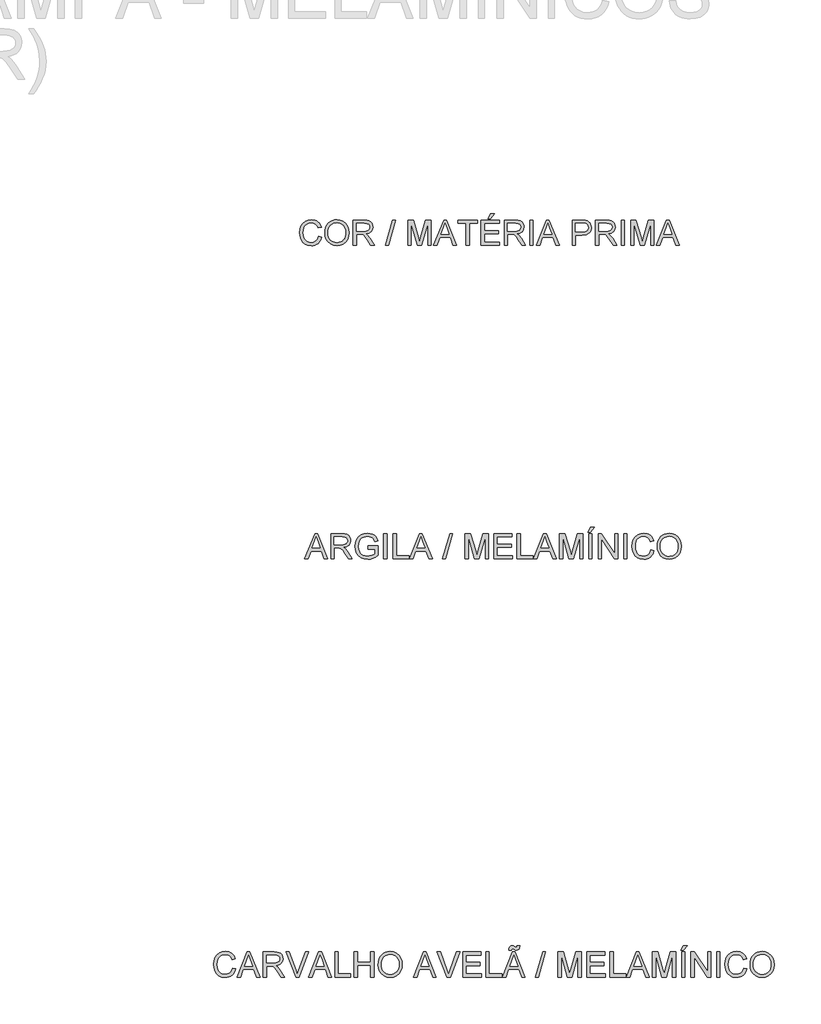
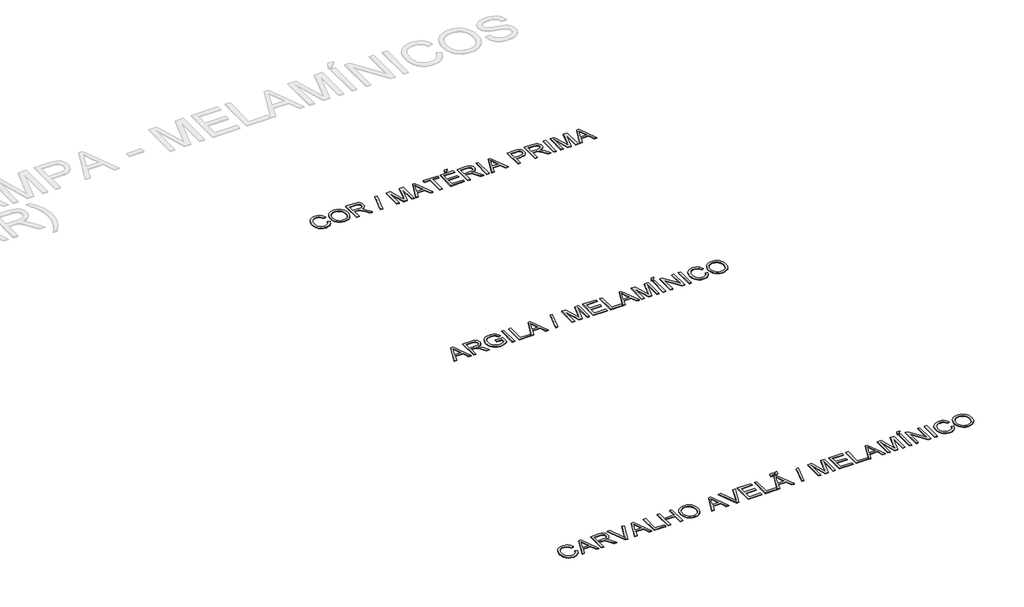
# One storey, part 42 of 67: 3 proxies.
"""IFC4 building model written with IfcOpenShell, lengths in millimetres."""

from ifc_helpers import new_model, si_unit, origin, origin_with_axes, place, context, project, spatial, polyline, outline, extrude, element, save

model = new_model("IFC4")

# Units and contexts
model_context = context("Model", 3, world=origin())
ifc_project = project(units=[si_unit("LENGTHUNIT", "METRE", prefix="MILLI")], contexts=[model_context])

# Site, building, storey
site = spatial("IfcSite", under=ifc_project)
building = spatial("IfcBuilding", under=site)
storey = spatial("IfcBuildingStorey", under=building, Name="Marelli - Linha COLAB - Planta Baixa", Elevation=0.0)

# Proxies
placement = place(None, origin())
element("IfcBuildingElementProxy", 1, Name="300mm Arial", ObjectType="300mm Arial", at=placement, inside=storey, context=model_context, shape_type="SweptSolid", body=[
    extrude(outline(polyline([(31304.1029253, -83673.4390831), (31341.7740416, -83683.1511677), (31334.3198327, -83706.5783531), (31324.3916173, -83727.0486868), (31311.9893956, -83744.5621691), (31297.1131674, -83759.1187997), (31280.0986251, -83770.5622291), (31261.2814611, -83778.7361071), (31240.6616752, -83783.640434), (31218.2392676, -83785.2752096), (31174.5440836, -83780.3271968), (31139.8436145, -83765.4831583), (31113.2457462, -83741.2581289), (31093.8583651, -83708.1671434), (31082.0217619, -83669.2636224), (31078.0762275, -83627.6009865), (31082.5367967, -83583.6574821), (31095.9185042, -83545.7104543), (31117.5223744, -83514.9647166), (31146.6494314, -83492.6250824), (31181.1935507, -83479.0226457), (31219.048608, -83474.4885001), (31260.352559, -83480.3562179), (31278.3212952, -83487.6908652), (31294.5012052, -83497.9593714), (31308.6255746, -83510.8904235), (31320.4276888, -83526.2127086), (31337.0651521, -83564.0309777), (31299.3940358, -83573.0072984), (31286.3342249, -83545.5357104), (31268.4919482, -83526.6909552), (31245.6464763, -83515.7924511), (31217.57708, -83512.1596164), (31185.2218586, -83516.1879242), (31158.6423844, -83528.2728478), (31138.473254, -83547.1451941), (31125.3490638, -83571.5357704), (31118.1477738, -83599.1085259), (31115.7473438, -83627.5274101), (31118.5892322, -83662.3290468), (31127.1148974, -83692.421794), (31141.6462362, -83716.6560205), (31162.5051454, -83733.8820949), (31187.511924, -83744.1735937), (31214.4868713, -83747.6040933), (31245.9315848, -83742.931992), (31272.1339799, -83728.9156879), (31291.9168342, -83705.702334), (31304.1029253, -83673.4390831)])), origin_with_axes(), (0.0, 0.0, 1.0), 10.0),
    extrude(outline(polyline([(31379.4451579, -83633.8549804), (31381.9559525, -83598.5061192), (31389.4883364, -83567.213157), (31402.0423095, -83539.9760937), (31419.6178718, -83516.7949295), (31441.1619611, -83498.2858666), (31465.6215153, -83485.0651074), (31492.9965342, -83477.1326519), (31523.287018, -83474.4885001), (31562.8159384, -83479.454907), (31598.2613686, -83494.3541278), (31627.6919283, -83518.1376988), (31649.1762368, -83549.7571563), (31662.309624, -83587.68579), (31666.6874197, -83630.3968896), (31662.0796978, -83673.6782064), (31648.2565318, -83712.140269), (31625.981277, -83743.8149087), (31596.0172885, -83766.733957), (31560.8753609, -83780.6398965), (31523.0662888, -83785.2752096), (31482.9303632, -83780.1524528), (31447.2825978, -83764.7841825), (31417.9256146, -83740.5591531), (31396.6620353, -83708.8661192), (31383.7493773, -83672.3998164), (31379.4451579, -83633.8549804)]), holes=[polyline([(31417.1162742, -83634.2228624), (31418.9993702, -83659.1974513), (31424.6486581, -83681.3669401), (31434.0641379, -83700.7313286), (31447.2458096, -83717.2906169), (31463.2693698, -83730.5527628), (31481.2105148, -83740.0257242), (31501.0692448, -83745.709501), (31522.8455596, -83747.6040933), (31544.994355, -83745.6911069), (31565.0876097, -83739.9521478), (31583.1253238, -83730.3872159), (31599.1074972, -83716.9963113), (31612.1925999, -83700.0875351), (31621.5391019, -83679.9689885), (31627.1470031, -83656.6406715), (31629.0163034, -83630.102584), (31625.8157301, -83596.7540812), (31616.21401, -83567.9305269), (31600.4594636, -83544.358488), (31578.8004111, -83526.7645316), (31552.6715924, -83515.8108452), (31523.5077472, -83512.1596164), (31502.4878897, -83513.9185522), (31482.9855455, -83519.1953595), (31465.0007144, -83527.9900385), (31448.5333966, -83540.302589), (31434.7884056, -83556.7262208), (31424.9705548, -83577.8541437), (31419.0798444, -83603.6863575), (31417.1162742, -83634.2228624)])]), origin_with_axes(), (0.0, 0.0, 1.0), 10.0),
    extrude(outline(polyline([(31718.4852047, -83780.5663201), (31718.4852047, -83479.1973896), (31848.347549, -83479.1973896), (31883.2503533, -83481.2299376), (31908.643408, -83487.3275817), (31927.2030546, -83498.5847708), (31941.6056347, -83516.0959537), (31950.8486699, -83537.8101885), (31953.9296816, -83561.6765329), (31948.8253189, -83591.3646099), (31933.5122308, -83615.9759154), (31921.9124517, -83626.0052983), (31907.5305649, -83634.0205273), (31870.4204687, -83644.0085235), (31891.8312008, -83660.1217548), (31922.3654064, -83698.8965171), (31972.6180869, -83780.5663201), (31928.8401295, -83780.5663201), (31889.6239088, -83718.0999573), (31861.2969952, -83676.750021), (31841.3945793, -83657.2154871), (31823.4787261, -83650.0417882), (31801.6265356, -83648.717413), (31756.156321, -83648.717413), (31756.156321, -83780.5663201), (31718.4852047, -83780.5663201)]), holes=[polyline([(31756.156321, -83611.0462967), (31840.4748743, -83611.0462967), (31864.6907066, -83609.7127245), (31883.4802795, -83605.7120078), (31897.6253422, -83598.7774322), (31907.907644, -83588.6422832), (31914.170835, -83576.3826157), (31916.2585653, -83563.0744845), (31912.2762427, -83544.6987789), (31900.3292749, -83529.8915286), (31879.7738684, -83520.1242616), (31849.9662297, -83516.8685059), (31756.156321, -83516.8685059), (31756.156321, -83611.0462967)])]), origin_with_axes(), (0.0, 0.0, 1.0), 10.0),
    extrude(outline(polyline([(32104.6141468, -83780.5663201), (32189.3741585, -83479.1973896), (32223.3664548, -83479.1973896), (32138.6064432, -83780.5663201), (32104.6141468, -83780.5663201)])), origin_with_axes(), (0.0, 0.0, 1.0), 10.0),
    extrude(outline(polyline([(32373.0208505, -83780.5663201), (32373.0208505, -83479.1973896), (32437.841658, -83479.1973896), (32499.4986804, -83691.6124536), (32511.9330919, -83735.9790223), (32525.3975729, -83687.9336337), (32586.0245257, -83479.1973896), (32650.8453332, -83479.1973896), (32650.8453332, -83780.5663201), (32613.1742169, -83780.5663201), (32613.1742169, -83516.8685059), (32537.4641023, -83780.5663201), (32486.4020814, -83780.5663201), (32410.6919668, -83516.8685059), (32410.6919668, -83780.5663201), (32373.0208505, -83780.5663201)])), origin_with_axes(), (0.0, 0.0, 1.0), 10.0),
    extrude(outline(polyline([(32681.6738444, -83780.5663201), (32801.9712569, -83479.1973896), (32834.0505668, -83479.1973896), (32954.3479793, -83780.5663201), (32914.5431474, -83780.5663201), (32880.0358162, -83686.3885293), (32755.9124311, -83686.3885293), (32721.4786763, -83780.5663201), (32681.6738444, -83780.5663201)]), holes=[polyline([(32769.7447941, -83648.717413), (32866.2770296, -83648.717413), (32839.1273384, -83574.6259792), (32818.0109119, -83516.8685059), (32799.2489301, -83568.1512561), (32769.7447941, -83648.717413)])]), origin_with_axes(), (0.0, 0.0, 1.0), 10.0),
    extrude(outline(polyline([(33069.9365021, -83780.5663201), (33069.9365021, -83516.8685059), (32971.0498218, -83516.8685059), (32971.0498218, -83479.1973896), (33206.4942988, -83479.1973896), (33206.4942988, -83516.8685059), (33107.6076185, -83516.8685059), (33107.6076185, -83780.5663201), (33069.9365021, -83780.5663201)])), origin_with_axes(), (0.0, 0.0, 1.0), 10.0),
    extrude(outline(polyline([(33248.8743046, -83780.5663201), (33248.8743046, -83479.1973896), (33465.4832234, -83479.1973896), (33465.4832234, -83516.8685059), (33286.5454209, -83516.8685059), (33286.5454209, -83606.3374072), (33456.0654443, -83606.3374072), (33456.0654443, -83644.0085235), (33286.5454209, -83644.0085235), (33286.5454209, -83742.8952038), (33470.1921129, -83742.8952038), (33470.1921129, -83780.5663201), (33248.8743046, -83780.5663201)])), origin_with_axes(), (0.0, 0.0, 1.0), 10.0),
    extrude(outline(polyline([(33333.6343163, -83460.3618315), (33361.8876535, -83403.855157), (33408.9765489, -83403.855157), (33361.8876535, -83460.3618315), (33333.6343163, -83460.3618315)])), origin_with_axes(), (0.0, 0.0, 1.0), 10.0),
    extrude(outline(polyline([(33526.6987874, -83780.5663201), (33526.6987874, -83479.1973896), (33656.5611317, -83479.1973896), (33691.463936, -83481.2299376), (33716.8569907, -83487.3275817), (33735.4166373, -83498.5847708), (33749.8192174, -83516.0959537), (33759.0622526, -83537.8101885), (33762.1432643, -83561.6765329), (33757.0389016, -83591.3646099), (33741.7258135, -83615.9759154), (33730.1260344, -83626.0052983), (33715.7441476, -83634.0205273), (33678.6340514, -83644.0085235), (33700.0447835, -83660.1217548), (33730.5789891, -83698.8965171), (33780.8316696, -83780.5663201), (33737.0537122, -83780.5663201), (33697.8374915, -83718.0999573), (33669.5105779, -83676.750021), (33649.6081619, -83657.2154871), (33631.6923088, -83650.0417882), (33609.8401183, -83648.717413), (33564.3699037, -83648.717413), (33564.3699037, -83780.5663201), (33526.6987874, -83780.5663201)]), holes=[polyline([(33564.3699037, -83611.0462967), (33648.688457, -83611.0462967), (33672.9042893, -83609.7127245), (33691.6938622, -83605.7120078), (33705.8389249, -83598.7774322), (33716.1212267, -83588.6422832), (33722.3844176, -83576.3826157), (33724.472148, -83563.0744845), (33720.4898254, -83544.6987789), (33708.5428576, -83529.8915286), (33687.9874511, -83520.1242616), (33658.1798124, -83516.8685059), (33564.3699037, -83516.8685059), (33564.3699037, -83611.0462967)])]), origin_with_axes(), (0.0, 0.0, 1.0), 10.0),
    extrude(outline(polyline([(33832.7766073, -83780.5663201), (33832.7766073, -83479.1973896), (33870.4477237, -83479.1973896), (33870.4477237, -83780.5663201), (33832.7766073, -83780.5663201)])), origin_with_axes(), (0.0, 0.0, 1.0), 10.0),
    extrude(outline(polyline([(33910.6940139, -83780.5663201), (34030.9914263, -83479.1973896), (34063.0707363, -83479.1973896), (34183.3681488, -83780.5663201), (34143.5633169, -83780.5663201), (34109.0559857, -83686.3885293), (33984.9326006, -83686.3885293), (33950.4988458, -83780.5663201), (33910.6940139, -83780.5663201)]), holes=[polyline([(33998.7649636, -83648.717413), (34095.2971991, -83648.717413), (34068.1475079, -83574.6259792), (34047.0310813, -83516.8685059), (34028.2690996, -83568.1512561), (33998.7649636, -83648.717413)])]), origin_with_axes(), (0.0, 0.0, 1.0), 10.0),
    extrude(outline(polyline([(34341.3366775, -83780.5663201), (34341.3366775, -83479.1973896), (34453.0256512, -83479.1973896), (34498.0544074, -83482.0668692), (34518.1315673, -83487.4287493), (34534.6586659, -83496.1567496), (34547.9667971, -83508.6463433), (34558.3870546, -83525.2930036), (34565.1192951, -83544.9287051), (34567.3633753, -83566.3854225), (34565.8481613, -83584.8852883), (34561.3025194, -83601.9044291), (34553.7264496, -83617.4428449), (34543.1199518, -83631.5005356), (34528.5587226, -83643.1531978), (34509.1184584, -83651.476528), (34484.7991593, -83656.470526), (34455.6008252, -83658.1351921), (34379.0077938, -83658.1351921), (34379.0077938, -83780.5663201), (34341.3366775, -83780.5663201)]), holes=[polyline([(34379.0077938, -83620.4640758), (34457.8081172, -83620.4640758), (34491.2118023, -83617.005985), (34513.284722, -83606.6317127), (34525.5903748, -83589.9850525), (34529.692259, -83567.7097977), (34527.2734349, -83550.7872259), (34520.0169625, -83536.5134045), (34508.8241528, -83525.7712502), (34494.5963167, -83519.4436799), (34456.9252004, -83516.8685059), (34379.0077938, -83516.8685059), (34379.0077938, -83620.4640758)])]), origin_with_axes(), (0.0, 0.0, 1.0), 10.0),
    extrude(outline(polyline([(34619.1611602, -83780.5663201), (34619.1611602, -83479.1973896), (34749.0235045, -83479.1973896), (34783.9263088, -83481.2299376), (34809.3193635, -83487.3275817), (34827.8790102, -83498.5847708), (34842.2815903, -83516.0959537), (34851.5246254, -83537.8101885), (34854.6056372, -83561.6765329), (34849.5012745, -83591.3646099), (34834.1881864, -83615.9759154), (34822.5884073, -83626.0052983), (34808.2065205, -83634.0205273), (34771.0964242, -83644.0085235), (34792.5071564, -83660.1217548), (34823.041362, -83698.8965171), (34873.2940425, -83780.5663201), (34829.5160851, -83780.5663201), (34790.2998644, -83718.0999573), (34761.9729508, -83676.750021), (34742.0705348, -83657.2154871), (34724.1546817, -83650.0417882), (34702.3024911, -83648.717413), (34656.8322765, -83648.717413), (34656.8322765, -83780.5663201), (34619.1611602, -83780.5663201)]), holes=[polyline([(34656.8322765, -83611.0462967), (34741.1508298, -83611.0462967), (34765.3666622, -83609.7127245), (34784.1562351, -83605.7120078), (34798.3012978, -83598.7774322), (34808.5835996, -83588.6422832), (34814.8467905, -83576.3826157), (34816.9345208, -83563.0744845), (34812.9521982, -83544.6987789), (34801.0052305, -83529.8915286), (34780.449824, -83520.1242616), (34750.6421853, -83516.8685059), (34656.8322765, -83516.8685059), (34656.8322765, -83611.0462967)])]), origin_with_axes(), (0.0, 0.0, 1.0), 10.0),
    extrude(outline(polyline([(34925.2389802, -83780.5663201), (34925.2389802, -83479.1973896), (34962.9100965, -83479.1973896), (34962.9100965, -83780.5663201), (34925.2389802, -83780.5663201)])), origin_with_axes(), (0.0, 0.0, 1.0), 10.0),
    extrude(outline(polyline([(35038.2523291, -83780.5663201), (35038.2523291, -83479.1973896), (35103.0731367, -83479.1973896), (35164.7301591, -83691.6124536), (35177.1645705, -83735.9790223), (35190.6290515, -83687.9336337), (35251.2560044, -83479.1973896), (35316.0768119, -83479.1973896), (35316.0768119, -83780.5663201), (35278.4056956, -83780.5663201), (35278.4056956, -83516.8685059), (35202.695581, -83780.5663201), (35151.6335601, -83780.5663201), (35075.9234454, -83516.8685059), (35075.9234454, -83780.5663201), (35038.2523291, -83780.5663201)])), origin_with_axes(), (0.0, 0.0, 1.0), 10.0),
    extrude(outline(polyline([(35346.9053231, -83780.5663201), (35467.2027355, -83479.1973896), (35499.2820455, -83479.1973896), (35619.5794579, -83780.5663201), (35579.774626, -83780.5663201), (35545.2672949, -83686.3885293), (35421.1439097, -83686.3885293), (35386.710155, -83780.5663201), (35346.9053231, -83780.5663201)]), holes=[polyline([(35434.9762727, -83648.717413), (35531.5085083, -83648.717413), (35504.358817, -83574.6259792), (35483.2423905, -83516.8685059), (35464.4804088, -83568.1512561), (35434.9762727, -83648.717413)])]), origin_with_axes(), (0.0, 0.0, 1.0), 10.0),
])
element("IfcBuildingElementProxy", 2, Name="300mm Arial", ObjectType="300mm Arial", at=placement, inside=storey, context=model_context, shape_type="SweptSolid", body=[
    extrude(outline(polyline([(31139.5125207, -87530.5663201), (31259.8099331, -87229.1973896), (31291.8892431, -87229.1973896), (31412.1866555, -87530.5663201), (31372.3818236, -87530.5663201), (31337.8744925, -87436.3885293), (31213.7511073, -87436.3885293), (31179.3173525, -87530.5663201), (31139.5125207, -87530.5663201)]), holes=[polyline([(31227.5834703, -87398.717413), (31324.1157058, -87398.717413), (31296.9660146, -87324.6259792), (31275.8495881, -87266.8685059), (31257.0876063, -87318.1512561), (31227.5834703, -87398.717413)])]), origin_with_axes(), (0.0, 0.0, 1.0), 10.0),
    extrude(outline(polyline([(31452.4329458, -87530.5663201), (31452.4329458, -87229.1973896), (31582.2952901, -87229.1973896), (31617.1980943, -87231.2299376), (31642.5911491, -87237.3275817), (31661.1507957, -87248.5847708), (31675.5533758, -87266.0959537), (31684.796411, -87287.8101885), (31687.8774227, -87311.6765329), (31682.77306, -87341.3646099), (31667.4599719, -87365.9759154), (31655.8601928, -87376.0052983), (31641.478306, -87384.0205273), (31604.3682098, -87394.0085235), (31625.7789419, -87410.1217548), (31656.3131475, -87448.8965171), (31706.565828, -87530.5663201), (31662.7878706, -87530.5663201), (31623.5716499, -87468.0999573), (31595.2447363, -87426.750021), (31575.3423203, -87407.2154871), (31557.4264672, -87400.0417882), (31535.5742767, -87398.717413), (31490.1040621, -87398.717413), (31490.1040621, -87530.5663201), (31452.4329458, -87530.5663201)]), holes=[polyline([(31490.1040621, -87361.0462967), (31574.4226154, -87361.0462967), (31598.6384477, -87359.7127245), (31617.4280206, -87355.7120078), (31631.5730833, -87348.7774322), (31641.8553851, -87338.6422832), (31648.118576, -87326.3826157), (31650.2063064, -87313.0744845), (31646.2239838, -87294.6987789), (31634.277016, -87279.8915286), (31613.7216095, -87270.1242616), (31583.9139708, -87266.8685059), (31490.1040621, -87266.8685059), (31490.1040621, -87361.0462967)])]), origin_with_axes(), (0.0, 0.0, 1.0), 10.0),
    extrude(outline(polyline([(31895.0685624, -87412.8440816), (31895.0685624, -87375.1729653), (32017.4996903, -87375.1729653), (32017.4996903, -87487.8184322), (31987.747234, -87508.5117945), (31957.0566785, -87523.355833), (31925.5016004, -87532.2953654), (31893.155576, -87535.2752096), (31850.8951318, -87530.5387289), (31812.6997836, -87516.3292869), (31780.9699615, -87493.1435241), (31758.1060955, -87461.4780814), (31744.2829296, -87423.4942654), (31739.6752076, -87381.3533828), (31744.2645355, -87338.9089976), (31758.0325191, -87299.4260625), (31780.4089415, -87266.3074859), (31810.8235855, -87242.9561762), (31847.8693024, -87229.1054191), (31890.1389436, -87224.4885001), (31921.1697899, -87227.1648416), (31949.0736392, -87235.1938661), (31972.5721017, -87247.9961596), (31990.3867873, -87264.9923077), (32003.5661598, -87287.0008481), (32013.1586828, -87314.8403181), (31978.4306225, -87324.6259792), (31970.6775094, -87304.7695485), (31961.2505333, -87289.7875542), (31948.7793336, -87278.493577), (31931.8935501, -87269.7011973), (31911.7612079, -87264.0450116), (31889.5503324, -87262.1596164), (31863.5502724, -87264.1921644), (31841.3210029, -87270.2898085), (31822.9452972, -87279.6891935), (31808.5059289, -87291.6269642), (31789.1185477, -87320.6528536), (31780.2893799, -87349.0901318), (31777.3463239, -87379.8082784), (31780.8871881, -87415.8331228), (31791.5097807, -87445.4752146), (31808.892205, -87468.5230216), (31832.7125642, -87484.7650117), (31860.5888224, -87494.3943229), (31890.1389436, -87497.6040933), (31916.2309741, -87495.1852692), (31941.6792111, -87487.9287968), (31963.779722, -87477.9316036), (31979.828574, -87467.2906169), (31979.828574, -87412.8440816), (31895.0685624, -87412.8440816)])), origin_with_axes(), (0.0, 0.0, 1.0), 10.0),
    extrude(outline(polyline([(32083.4241439, -87530.5663201), (32083.4241439, -87229.1973896), (32121.0952602, -87229.1973896), (32121.0952602, -87530.5663201), (32083.4241439, -87530.5663201)])), origin_with_axes(), (0.0, 0.0, 1.0), 10.0),
    extrude(outline(polyline([(32196.4374928, -87530.5663201), (32196.4374928, -87229.1973896), (32234.1086091, -87229.1973896), (32234.1086091, -87492.8952038), (32384.7930743, -87492.8952038), (32384.7930743, -87530.5663201), (32196.4374928, -87530.5663201)])), origin_with_axes(), (0.0, 0.0, 1.0), 10.0),
    extrude(outline(polyline([(32392.0771378, -87530.5663201), (32512.3745503, -87229.1973896), (32544.4538602, -87229.1973896), (32664.7512727, -87530.5663201), (32624.9464408, -87530.5663201), (32590.4391096, -87436.3885293), (32466.3157245, -87436.3885293), (32431.8819697, -87530.5663201), (32392.0771378, -87530.5663201)]), holes=[polyline([(32480.1480875, -87398.717413), (32576.680323, -87398.717413), (32549.5306318, -87324.6259792), (32528.4142052, -87266.8685059), (32509.6522235, -87318.1512561), (32480.1480875, -87398.717413)])]), origin_with_axes(), (0.0, 0.0, 1.0), 10.0),
    extrude(outline(polyline([(32789.7575746, -87530.5663201), (32874.5175863, -87229.1973896), (32908.5098827, -87229.1973896), (32823.749871, -87530.5663201), (32789.7575746, -87530.5663201)])), origin_with_axes(), (0.0, 0.0, 1.0), 10.0),
    extrude(outline(polyline([(33058.1642783, -87530.5663201), (33058.1642783, -87229.1973896), (33122.9850859, -87229.1973896), (33184.6421082, -87441.6124536), (33197.0765197, -87485.9790223), (33210.5410007, -87437.9336337), (33271.1679535, -87229.1973896), (33335.9887611, -87229.1973896), (33335.9887611, -87530.5663201), (33298.3176448, -87530.5663201), (33298.3176448, -87266.8685059), (33222.6075301, -87530.5663201), (33171.5455092, -87530.5663201), (33095.8353946, -87266.8685059), (33095.8353946, -87530.5663201), (33058.1642783, -87530.5663201)])), origin_with_axes(), (0.0, 0.0, 1.0), 10.0),
    extrude(outline(polyline([(33401.9132146, -87530.5663201), (33401.9132146, -87229.1973896), (33618.5221334, -87229.1973896), (33618.5221334, -87266.8685059), (33439.5843309, -87266.8685059), (33439.5843309, -87356.3374072), (33609.1043543, -87356.3374072), (33609.1043543, -87394.0085235), (33439.5843309, -87394.0085235), (33439.5843309, -87492.8952038), (33623.2310229, -87492.8952038), (33623.2310229, -87530.5663201), (33401.9132146, -87530.5663201)])), origin_with_axes(), (0.0, 0.0, 1.0), 10.0),
    extrude(outline(polyline([(33679.7376974, -87530.5663201), (33679.7376974, -87229.1973896), (33717.4088137, -87229.1973896), (33717.4088137, -87492.8952038), (33868.0932789, -87492.8952038), (33868.0932789, -87530.5663201), (33679.7376974, -87530.5663201)])), origin_with_axes(), (0.0, 0.0, 1.0), 10.0),
    extrude(outline(polyline([(33875.3773424, -87530.5663201), (33995.6747548, -87229.1973896), (34027.7540648, -87229.1973896), (34148.0514772, -87530.5663201), (34108.2466453, -87530.5663201), (34073.7393142, -87436.3885293), (33949.615929, -87436.3885293), (33915.1821743, -87530.5663201), (33875.3773424, -87530.5663201)]), holes=[polyline([(33963.448292, -87398.717413), (34059.9805276, -87398.717413), (34032.8308363, -87324.6259792), (34011.7144098, -87266.8685059), (33992.952428, -87318.1512561), (33963.448292, -87398.717413)])]), origin_with_axes(), (0.0, 0.0, 1.0), 10.0),
    extrude(outline(polyline([(34188.2977675, -87530.5663201), (34188.2977675, -87229.1973896), (34253.118575, -87229.1973896), (34314.7755974, -87441.6124536), (34327.2100089, -87485.9790223), (34340.6744899, -87437.9336337), (34401.3014427, -87229.1973896), (34466.1222502, -87229.1973896), (34466.1222502, -87530.5663201), (34428.4511339, -87530.5663201), (34428.4511339, -87266.8685059), (34352.7410193, -87530.5663201), (34301.6789984, -87530.5663201), (34225.9688838, -87266.8685059), (34225.9688838, -87530.5663201), (34188.2977675, -87530.5663201)])), origin_with_axes(), (0.0, 0.0, 1.0), 10.0),
    extrude(outline(polyline([(34536.7555933, -87530.5663201), (34536.7555933, -87229.1973896), (34574.4267096, -87229.1973896), (34574.4267096, -87530.5663201), (34536.7555933, -87530.5663201)])), origin_with_axes(), (0.0, 0.0, 1.0), 10.0),
    extrude(outline(polyline([(34527.3378142, -87210.3618315), (34555.5911515, -87153.855157), (34602.6800469, -87153.855157), (34555.5911515, -87210.3618315), (34527.3378142, -87210.3618315)])), origin_with_axes(), (0.0, 0.0, 1.0), 10.0),
    extrude(outline(polyline([(34649.7689422, -87530.5663201), (34649.7689422, -87229.1973896), (34690.0888089, -87229.1973896), (34847.5423028, -87467.9528045), (34847.5423028, -87229.1973896), (34885.2134191, -87229.1973896), (34885.2134191, -87530.5663201), (34844.8935525, -87530.5663201), (34687.4400585, -87291.7373288), (34687.4400585, -87530.5663201), (34649.7689422, -87530.5663201)])), origin_with_axes(), (0.0, 0.0, 1.0), 10.0),
    extrude(outline(polyline([(34955.8467622, -87530.5663201), (34955.8467622, -87229.1973896), (34993.5178785, -87229.1973896), (34993.5178785, -87530.5663201), (34955.8467622, -87530.5663201)])), origin_with_axes(), (0.0, 0.0, 1.0), 10.0),
    extrude(outline(polyline([(35280.7601404, -87423.4390831), (35318.4312567, -87433.1511677), (35310.9770477, -87456.5783531), (35301.0488324, -87477.0486868), (35288.6466106, -87494.5621691), (35273.7703825, -87509.1187997), (35256.7558402, -87520.5622291), (35237.9386761, -87528.7361071), (35217.3188903, -87533.640434), (35194.8964827, -87535.2752096), (35151.2012987, -87530.3271968), (35116.5008295, -87515.4831583), (35089.9029613, -87491.2581289), (35070.5155801, -87458.1671434), (35058.6789769, -87419.2636224), (35054.7334425, -87377.6009865), (35059.1940117, -87333.6574821), (35072.5757193, -87295.7104543), (35094.1795895, -87264.9647166), (35123.3066464, -87242.6250824), (35157.8507658, -87229.0226457), (35195.7058231, -87224.4885001), (35237.0097741, -87230.3562179), (35254.9785103, -87237.6908652), (35271.1584203, -87247.9593714), (35285.2827896, -87260.8904235), (35297.0849039, -87276.2127086), (35313.7223671, -87314.0309777), (35276.0512508, -87323.0072984), (35262.99144, -87295.5357104), (35245.1491632, -87276.6909552), (35222.3036913, -87265.7924511), (35194.2342951, -87262.1596164), (35161.8790736, -87266.1879242), (35135.2995995, -87278.2728478), (35115.1304691, -87297.1451941), (35102.0062789, -87321.5357704), (35094.8049889, -87349.1085259), (35092.4045588, -87377.5274101), (35095.2464472, -87412.3290468), (35103.7721125, -87442.421794), (35118.3034513, -87466.6560205), (35139.1623604, -87483.8820949), (35164.169139, -87494.1735937), (35191.1440863, -87497.6040933), (35222.5887999, -87492.931992), (35248.791195, -87478.9156879), (35268.5740493, -87455.702334), (35280.7601404, -87423.4390831)])), origin_with_axes(), (0.0, 0.0, 1.0), 10.0),
    extrude(outline(polyline([(35356.102373, -87383.8549804), (35358.6131676, -87348.5061192), (35366.1455514, -87317.213157), (35378.6995245, -87289.9760937), (35396.2750868, -87266.7949295), (35417.8191762, -87248.2858666), (35442.2787303, -87235.0651074), (35469.6537493, -87227.1326519), (35499.9442331, -87224.4885001), (35539.4731535, -87229.454907), (35574.9185837, -87244.3541278), (35604.3491433, -87268.1376988), (35625.8334518, -87299.7571563), (35638.9668391, -87337.68579), (35643.3446348, -87380.3968896), (35638.7369128, -87423.6782064), (35624.9137469, -87462.140269), (35602.638492, -87493.8149087), (35572.6745035, -87516.733957), (35537.5325759, -87530.6398965), (35499.7235039, -87535.2752096), (35459.5875782, -87530.1524528), (35423.9398129, -87514.7841825), (35394.5828297, -87490.5591531), (35373.3192504, -87458.8661192), (35360.4065923, -87422.3998164), (35356.102373, -87383.8549804)]), holes=[polyline([(35393.7734893, -87384.2228624), (35395.6565852, -87409.1974513), (35401.3058731, -87431.3669401), (35410.7213529, -87450.7313286), (35423.9030247, -87467.2906169), (35439.9265848, -87480.5527628), (35457.8677299, -87490.0257242), (35477.7264598, -87495.709501), (35499.5027747, -87497.6040933), (35521.6515701, -87495.6911069), (35541.7448248, -87489.9521478), (35559.7825389, -87480.3872159), (35575.7647123, -87466.9963113), (35588.849815, -87450.0875351), (35598.196317, -87429.9689885), (35603.8042181, -87406.6406715), (35605.6735185, -87380.102584), (35602.4729451, -87346.7540812), (35592.8712251, -87317.9305269), (35577.1166786, -87294.358488), (35555.4576262, -87276.7645316), (35529.3288075, -87265.8108452), (35500.1649623, -87262.1596164), (35479.1451048, -87263.9185522), (35459.6427605, -87269.1953595), (35441.6579295, -87277.9900385), (35425.1906117, -87290.302589), (35411.4456206, -87306.7262208), (35401.6277699, -87327.8541437), (35395.7370594, -87353.6863575), (35393.7734893, -87384.2228624)])]), origin_with_axes(), (0.0, 0.0, 1.0), 10.0),
])
element("IfcBuildingElementProxy", 3, Name="300mm Arial", ObjectType="300mm Arial", at=placement, inside=storey, context=model_context, shape_type="SweptSolid", body=[
    extrude(outline(polyline([(30275.2105612, -92423.4390831), (30312.8816775, -92433.1511677), (30305.4274686, -92456.5783531), (30295.4992532, -92477.0486868), (30283.0970315, -92494.5621691), (30268.2208033, -92509.1187997), (30251.206261, -92520.5622291), (30232.389097, -92528.7361071), (30211.7693111, -92533.640434), (30189.3469035, -92535.2752096), (30145.6517195, -92530.3271968), (30110.9512503, -92515.4831583), (30084.3533821, -92491.2581289), (30064.9660009, -92458.1671434), (30053.1293978, -92419.2636224), (30049.1838634, -92377.6009865), (30053.6444325, -92333.6574821), (30067.0261401, -92295.7104543), (30088.6300103, -92264.9647166), (30117.7570673, -92242.6250824), (30152.3011866, -92229.0226457), (30190.1562439, -92224.4885001), (30231.4601949, -92230.3562179), (30249.4289311, -92237.6908652), (30265.6088411, -92247.9593714), (30279.7332105, -92260.8904235), (30291.5353247, -92276.2127086), (30308.172788, -92314.0309777), (30270.5016717, -92323.0072984), (30257.4418608, -92295.5357104), (30239.5995841, -92276.6909552), (30216.7541122, -92265.7924511), (30188.6847159, -92262.1596164), (30156.3294944, -92266.1879242), (30129.7500203, -92278.2728478), (30109.5808899, -92297.1451941), (30096.4566997, -92321.5357704), (30089.2554097, -92349.1085259), (30086.8549797, -92377.5274101), (30089.6968681, -92412.3290468), (30098.2225333, -92442.421794), (30112.7538721, -92466.6560205), (30133.6127812, -92483.8820949), (30158.6195599, -92494.1735937), (30185.5945072, -92497.6040933), (30217.0392207, -92492.931992), (30243.2416158, -92478.9156879), (30263.0244701, -92455.702334), (30275.2105612, -92423.4390831)])), origin_with_axes(), (0.0, 0.0, 1.0), 10.0),
    extrude(outline(polyline([(30329.5835201, -92530.5663201), (30449.8809325, -92229.1973896), (30481.9602425, -92229.1973896), (30602.2576549, -92530.5663201), (30562.452823, -92530.5663201), (30527.9454919, -92436.3885293), (30403.8221067, -92436.3885293), (30369.388352, -92530.5663201), (30329.5835201, -92530.5663201)]), holes=[polyline([(30417.6544697, -92398.717413), (30514.1867053, -92398.717413), (30487.037014, -92324.6259792), (30465.9205875, -92266.8685059), (30447.1586057, -92318.1512561), (30417.6544697, -92398.717413)])]), origin_with_axes(), (0.0, 0.0, 1.0), 10.0),
    extrude(outline(polyline([(30642.5039452, -92530.5663201), (30642.5039452, -92229.1973896), (30772.3662895, -92229.1973896), (30807.2690938, -92231.2299376), (30832.6621485, -92237.3275817), (30851.2217951, -92248.5847708), (30865.6243752, -92266.0959537), (30874.8674104, -92287.8101885), (30877.9484221, -92311.6765329), (30872.8440594, -92341.3646099), (30857.5309714, -92365.9759154), (30845.9311922, -92376.0052983), (30831.5493054, -92384.0205273), (30794.4392092, -92394.0085235), (30815.8499413, -92410.1217548), (30846.3841469, -92448.8965171), (30896.6368274, -92530.5663201), (30852.85887, -92530.5663201), (30813.6426493, -92468.0999573), (30785.3157357, -92426.750021), (30765.4133198, -92407.2154871), (30747.4974666, -92400.0417882), (30725.6452761, -92398.717413), (30680.1750615, -92398.717413), (30680.1750615, -92530.5663201), (30642.5039452, -92530.5663201)]), holes=[polyline([(30680.1750615, -92361.0462967), (30764.4936148, -92361.0462967), (30788.7094471, -92359.7127245), (30807.49902, -92355.7120078), (30821.6440827, -92348.7774322), (30831.9263845, -92338.6422832), (30838.1895755, -92326.3826157), (30840.2773058, -92313.0744845), (30836.2949832, -92294.6987789), (30824.3480154, -92279.8915286), (30803.7926089, -92270.1242616), (30773.9849703, -92266.8685059), (30680.1750615, -92266.8685059), (30680.1750615, -92361.0462967)])]), origin_with_axes(), (0.0, 0.0, 1.0), 10.0),
    extrude(outline(polyline([(31186.601416, -92530.5663201), (31306.8988285, -92229.1973896), (31338.9781384, -92229.1973896), (31459.2755509, -92530.5663201), (31419.470719, -92530.5663201), (31384.9633878, -92436.3885293), (31260.8400027, -92436.3885293), (31226.4062479, -92530.5663201), (31186.601416, -92530.5663201)]), holes=[polyline([(31274.6723657, -92398.717413), (31371.2046012, -92398.717413), (31344.05491, -92324.6259792), (31322.9384835, -92266.8685059), (31304.1765017, -92318.1512561), (31274.6723657, -92398.717413)])]), origin_with_axes(), (0.0, 0.0, 1.0), 10.0),
    extrude(outline(polyline([(31032.9003185, -92530.5663201), (30912.970788, -92229.1973896), (30953.2906547, -92229.1973896), (31033.562506, -92446.3213432), (31049.8228902, -92495.2496485), (31065.8625452, -92446.3213432), (31146.3551258, -92229.1973896), (31186.6749924, -92229.1973896), (31071.8222335, -92530.5663201), (31032.9003185, -92530.5663201)])), origin_with_axes(), (0.0, 0.0, 1.0), 10.0),
    extrude(outline(polyline([(31499.5218411, -92530.5663201), (31499.5218411, -92229.1973896), (31537.1929574, -92229.1973896), (31537.1929574, -92492.8952038), (31687.8774227, -92492.8952038), (31687.8774227, -92530.5663201), (31499.5218411, -92530.5663201)])), origin_with_axes(), (0.0, 0.0, 1.0), 10.0),
    extrude(outline(polyline([(31730.2574285, -92530.5663201), (31730.2574285, -92229.1973896), (31767.9285448, -92229.1973896), (31767.9285448, -92351.6285176), (31928.0307891, -92351.6285176), (31928.0307891, -92229.1973896), (31965.7019054, -92229.1973896), (31965.7019054, -92530.5663201), (31928.0307891, -92530.5663201), (31928.0307891, -92389.2996339), (31767.9285448, -92389.2996339), (31767.9285448, -92530.5663201), (31730.2574285, -92530.5663201)])), origin_with_axes(), (0.0, 0.0, 1.0), 10.0),
    extrude(outline(polyline([(32017.4996903, -92383.8549804), (32020.010485, -92348.5061192), (32027.5428688, -92317.213157), (32040.0968419, -92289.9760937), (32057.6724042, -92266.7949295), (32079.2164936, -92248.2858666), (32103.6760477, -92235.0651074), (32131.0510667, -92227.1326519), (32161.3415505, -92224.4885001), (32200.8704708, -92229.454907), (32236.3159011, -92244.3541278), (32265.7464607, -92268.1376988), (32287.2307692, -92299.7571563), (32300.3641564, -92337.68579), (32304.7419522, -92380.3968896), (32300.1342302, -92423.6782064), (32286.3110642, -92462.140269), (32264.0358094, -92493.8149087), (32234.0718209, -92516.733957), (32198.9298933, -92530.6398965), (32161.1208213, -92535.2752096), (32120.9848956, -92530.1524528), (32085.3371303, -92514.7841825), (32055.980147, -92490.5591531), (32034.7165677, -92458.8661192), (32021.8039097, -92422.3998164), (32017.4996903, -92383.8549804)]), holes=[polyline([(32055.1708067, -92384.2228624), (32057.0539026, -92409.1974513), (32062.7031905, -92431.3669401), (32072.1186703, -92450.7313286), (32085.3003421, -92467.2906169), (32101.3239022, -92480.5527628), (32119.2650473, -92490.0257242), (32139.1237772, -92495.709501), (32160.9000921, -92497.6040933), (32183.0488874, -92495.6911069), (32203.1421422, -92489.9521478), (32221.1798562, -92480.3872159), (32237.1620297, -92466.9963113), (32250.2471324, -92450.0875351), (32259.5936343, -92429.9689885), (32265.2015355, -92406.6406715), (32267.0708359, -92380.102584), (32263.8702625, -92346.7540812), (32254.2685424, -92317.9305269), (32238.513996, -92294.358488), (32216.8549435, -92276.7645316), (32190.7261248, -92265.8108452), (32161.5622797, -92262.1596164), (32140.5424222, -92263.9185522), (32121.0400779, -92269.1953595), (32103.0552469, -92277.9900385), (32086.587929, -92290.302589), (32072.842938, -92306.7262208), (32063.0250873, -92327.8541437), (32057.1343768, -92353.6863575), (32055.1708067, -92384.2228624)])]), origin_with_axes(), (0.0, 0.0, 1.0), 10.0),
    extrude(outline(polyline([(32439.1660332, -92530.5663201), (32559.4634456, -92229.1973896), (32591.5427556, -92229.1973896), (32711.840168, -92530.5663201), (32672.0353362, -92530.5663201), (32637.528005, -92436.3885293), (32513.4046198, -92436.3885293), (32478.9708651, -92530.5663201), (32439.1660332, -92530.5663201)]), holes=[polyline([(32527.2369829, -92398.717413), (32623.7692184, -92398.717413), (32596.6195272, -92324.6259792), (32575.5031006, -92266.8685059), (32556.7411189, -92318.1512561), (32527.2369829, -92398.717413)])]), origin_with_axes(), (0.0, 0.0, 1.0), 10.0),
    extrude(outline(polyline([(32841.1139011, -92530.5663201), (32721.1843707, -92229.1973896), (32761.5042374, -92229.1973896), (32841.7760887, -92446.3213432), (32858.0364729, -92495.2496485), (32874.0761279, -92446.3213432), (32954.5687085, -92229.1973896), (32994.8885751, -92229.1973896), (32880.0358162, -92530.5663201), (32841.1139011, -92530.5663201)])), origin_with_axes(), (0.0, 0.0, 1.0), 10.0),
    extrude(outline(polyline([(33029.9109411, -92530.5663201), (33029.9109411, -92229.1973896), (33246.5198598, -92229.1973896), (33246.5198598, -92266.8685059), (33067.5820574, -92266.8685059), (33067.5820574, -92356.3374072), (33237.1020808, -92356.3374072), (33237.1020808, -92394.0085235), (33067.5820574, -92394.0085235), (33067.5820574, -92492.8952038), (33251.2287494, -92492.8952038), (33251.2287494, -92530.5663201), (33029.9109411, -92530.5663201)])), origin_with_axes(), (0.0, 0.0, 1.0), 10.0),
    extrude(outline(polyline([(33307.7354238, -92530.5663201), (33307.7354238, -92229.1973896), (33345.4065401, -92229.1973896), (33345.4065401, -92492.8952038), (33496.0910054, -92492.8952038), (33496.0910054, -92530.5663201), (33307.7354238, -92530.5663201)])), origin_with_axes(), (0.0, 0.0, 1.0), 10.0),
    extrude(outline(polyline([(33503.3750689, -92530.5663201), (33623.6724813, -92229.1973896), (33655.7517913, -92229.1973896), (33776.0492037, -92530.5663201), (33736.2443718, -92530.5663201), (33701.7370407, -92436.3885293), (33577.6136555, -92436.3885293), (33543.1799007, -92530.5663201), (33503.3750689, -92530.5663201)]), holes=[polyline([(33591.4460185, -92398.717413), (33687.978254, -92398.717413), (33660.8285628, -92324.6259792), (33639.7121363, -92266.8685059), (33620.9501545, -92318.1512561), (33591.4460185, -92398.717413)])]), origin_with_axes(), (0.0, 0.0, 1.0), 10.0),
    extrude(outline(polyline([(33580.8510171, -92210.3618315), (33583.7021025, -92187.2036599), (33592.5496645, -92169.2326244), (33605.8853868, -92157.6995239), (33622.4952589, -92153.855157), (33636.4011983, -92156.8901835), (33652.6615825, -92165.9952628), (33667.8918971, -92172.6907152), (33675.8749364, -92168.9015306), (33679.7376974, -92153.855157), (33712.6999241, -92153.855157), (33709.4165773, -92178.5768271), (33700.7437593, -92196.2351629), (33687.8402983, -92206.8301643), (33671.8650227, -92210.3618315), (33657.8671127, -92207.4923519), (33642.066581, -92198.8839132), (33626.1740789, -92191.5262733), (33617.1977582, -92196.3087393), (33613.8132438, -92210.3618315), (33580.8510171, -92210.3618315)])), origin_with_axes(), (0.0, 0.0, 1.0), 10.0),
    extrude(outline(polyline([(33901.0555057, -92530.5663201), (33985.8155173, -92229.1973896), (34019.8078137, -92229.1973896), (33935.047802, -92530.5663201), (33901.0555057, -92530.5663201)])), origin_with_axes(), (0.0, 0.0, 1.0), 10.0),
    extrude(outline(polyline([(34169.4622093, -92530.5663201), (34169.4622093, -92229.1973896), (34234.2830169, -92229.1973896), (34295.9400393, -92441.6124536), (34308.3744507, -92485.9790223), (34321.8389317, -92437.9336337), (34382.4658845, -92229.1973896), (34447.2866921, -92229.1973896), (34447.2866921, -92530.5663201), (34409.6155758, -92530.5663201), (34409.6155758, -92266.8685059), (34333.9054612, -92530.5663201), (34282.8434402, -92530.5663201), (34207.1333256, -92266.8685059), (34207.1333256, -92530.5663201), (34169.4622093, -92530.5663201)])), origin_with_axes(), (0.0, 0.0, 1.0), 10.0),
    extrude(outline(polyline([(34513.2111456, -92530.5663201), (34513.2111456, -92229.1973896), (34729.8200644, -92229.1973896), (34729.8200644, -92266.8685059), (34550.8822619, -92266.8685059), (34550.8822619, -92356.3374072), (34720.4022853, -92356.3374072), (34720.4022853, -92394.0085235), (34550.8822619, -92394.0085235), (34550.8822619, -92492.8952038), (34734.5289539, -92492.8952038), (34734.5289539, -92530.5663201), (34513.2111456, -92530.5663201)])), origin_with_axes(), (0.0, 0.0, 1.0), 10.0),
    extrude(outline(polyline([(34791.0356284, -92530.5663201), (34791.0356284, -92229.1973896), (34828.7067447, -92229.1973896), (34828.7067447, -92492.8952038), (34979.3912099, -92492.8952038), (34979.3912099, -92530.5663201), (34791.0356284, -92530.5663201)])), origin_with_axes(), (0.0, 0.0, 1.0), 10.0),
    extrude(outline(polyline([(34986.6752734, -92530.5663201), (35106.9726858, -92229.1973896), (35139.0519958, -92229.1973896), (35259.3494082, -92530.5663201), (35219.5445764, -92530.5663201), (35185.0372452, -92436.3885293), (35060.91386, -92436.3885293), (35026.4801053, -92530.5663201), (34986.6752734, -92530.5663201)]), holes=[polyline([(35074.7462231, -92398.717413), (35171.2784586, -92398.717413), (35144.1287674, -92324.6259792), (35123.0123408, -92266.8685059), (35104.2503591, -92318.1512561), (35074.7462231, -92398.717413)])]), origin_with_axes(), (0.0, 0.0, 1.0), 10.0),
    extrude(outline(polyline([(35299.5956985, -92530.5663201), (35299.5956985, -92229.1973896), (35364.4165061, -92229.1973896), (35426.0735285, -92441.6124536), (35438.5079399, -92485.9790223), (35451.9724209, -92437.9336337), (35512.5993737, -92229.1973896), (35577.4201813, -92229.1973896), (35577.4201813, -92530.5663201), (35539.749065, -92530.5663201), (35539.749065, -92266.8685059), (35464.0389504, -92530.5663201), (35412.9769294, -92530.5663201), (35337.2668148, -92266.8685059), (35337.2668148, -92530.5663201), (35299.5956985, -92530.5663201)])), origin_with_axes(), (0.0, 0.0, 1.0), 10.0),
    extrude(outline(polyline([(35648.0535243, -92530.5663201), (35648.0535243, -92229.1973896), (35685.7246407, -92229.1973896), (35685.7246407, -92530.5663201), (35648.0535243, -92530.5663201)])), origin_with_axes(), (0.0, 0.0, 1.0), 10.0),
    extrude(outline(polyline([(35638.6357453, -92210.3618315), (35666.8890825, -92153.855157), (35713.9779779, -92153.855157), (35666.8890825, -92210.3618315), (35638.6357453, -92210.3618315)])), origin_with_axes(), (0.0, 0.0, 1.0), 10.0),
    extrude(outline(polyline([(35761.0668733, -92530.5663201), (35761.0668733, -92229.1973896), (35801.3867399, -92229.1973896), (35958.8402339, -92467.9528045), (35958.8402339, -92229.1973896), (35996.5113502, -92229.1973896), (35996.5113502, -92530.5663201), (35956.1914835, -92530.5663201), (35798.7379896, -92291.7373288), (35798.7379896, -92530.5663201), (35761.0668733, -92530.5663201)])), origin_with_axes(), (0.0, 0.0, 1.0), 10.0),
    extrude(outline(polyline([(36067.1446933, -92530.5663201), (36067.1446933, -92229.1973896), (36104.8158096, -92229.1973896), (36104.8158096, -92530.5663201), (36067.1446933, -92530.5663201)])), origin_with_axes(), (0.0, 0.0, 1.0), 10.0),
    extrude(outline(polyline([(36392.0580714, -92423.4390831), (36429.7291877, -92433.1511677), (36422.2749788, -92456.5783531), (36412.3467634, -92477.0486868), (36399.9445417, -92494.5621691), (36385.0683135, -92509.1187997), (36368.0537712, -92520.5622291), (36349.2366072, -92528.7361071), (36328.6168213, -92533.640434), (36306.1944137, -92535.2752096), (36262.4992297, -92530.3271968), (36227.7987605, -92515.4831583), (36201.2008923, -92491.2581289), (36181.8135112, -92458.1671434), (36169.976908, -92419.2636224), (36166.0313736, -92377.6009865), (36170.4919427, -92333.6574821), (36183.8736503, -92295.7104543), (36205.4775205, -92264.9647166), (36234.6045775, -92242.6250824), (36269.1486968, -92229.0226457), (36307.0037541, -92224.4885001), (36348.3077051, -92230.3562179), (36366.2764413, -92237.6908652), (36382.4563513, -92247.9593714), (36396.5807207, -92260.8904235), (36408.3828349, -92276.2127086), (36425.0202982, -92314.0309777), (36387.3491819, -92323.0072984), (36374.289371, -92295.5357104), (36356.4470943, -92276.6909552), (36333.6016224, -92265.7924511), (36305.5322261, -92262.1596164), (36273.1770047, -92266.1879242), (36246.5975305, -92278.2728478), (36226.4284001, -92297.1451941), (36213.3042099, -92321.5357704), (36206.1029199, -92349.1085259), (36203.7024899, -92377.5274101), (36206.5443783, -92412.3290468), (36215.0700435, -92442.421794), (36229.6013823, -92466.6560205), (36250.4602915, -92483.8820949), (36275.4670701, -92494.1735937), (36302.4420174, -92497.6040933), (36333.8867309, -92492.931992), (36360.089126, -92478.9156879), (36379.8719803, -92455.702334), (36392.0580714, -92423.4390831)])), origin_with_axes(), (0.0, 0.0, 1.0), 10.0),
    extrude(outline(polyline([(36467.400304, -92383.8549804), (36469.9110986, -92348.5061192), (36477.4434825, -92317.213157), (36489.9974556, -92289.9760937), (36507.5730179, -92266.7949295), (36529.1171072, -92248.2858666), (36553.5766614, -92235.0651074), (36580.9516803, -92227.1326519), (36611.2421641, -92224.4885001), (36650.7710845, -92229.454907), (36686.2165147, -92244.3541278), (36715.6470744, -92268.1376988), (36737.1313829, -92299.7571563), (36750.2647701, -92337.68579), (36754.6425658, -92380.3968896), (36750.0348439, -92423.6782064), (36736.2116779, -92462.140269), (36713.9364231, -92493.8149087), (36683.9724346, -92516.733957), (36648.830507, -92530.6398965), (36611.0214349, -92535.2752096), (36570.8855092, -92530.1524528), (36535.2377439, -92514.7841825), (36505.8807607, -92490.5591531), (36484.6171814, -92458.8661192), (36471.7045233, -92422.3998164), (36467.400304, -92383.8549804)]), holes=[polyline([(36505.0714203, -92384.2228624), (36506.9545163, -92409.1974513), (36512.6038042, -92431.3669401), (36522.019284, -92450.7313286), (36535.2009557, -92467.2906169), (36551.2245159, -92480.5527628), (36569.1656609, -92490.0257242), (36589.0243909, -92495.709501), (36610.8007057, -92497.6040933), (36632.9495011, -92495.6911069), (36653.0427558, -92489.9521478), (36671.0804699, -92480.3872159), (36687.0626433, -92466.9963113), (36700.147746, -92450.0875351), (36709.494248, -92429.9689885), (36715.1021491, -92406.6406715), (36716.9714495, -92380.102584), (36713.7708762, -92346.7540812), (36704.1691561, -92317.9305269), (36688.4146097, -92294.358488), (36666.7555572, -92276.7645316), (36640.6267385, -92265.8108452), (36611.4628933, -92262.1596164), (36590.4430358, -92263.9185522), (36570.9406915, -92269.1953595), (36552.9558605, -92277.9900385), (36536.4885427, -92290.302589), (36522.7435517, -92306.7262208), (36512.9257009, -92327.8541437), (36507.0349905, -92353.6863575), (36505.0714203, -92384.2228624)])]), origin_with_axes(), (0.0, 0.0, 1.0), 10.0),
])

save(model, "model.ifc")
